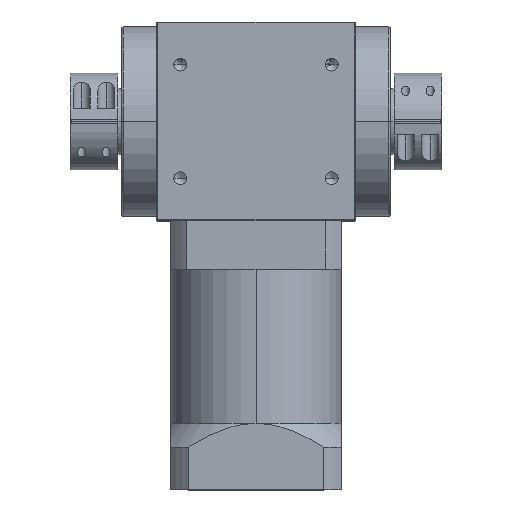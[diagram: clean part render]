
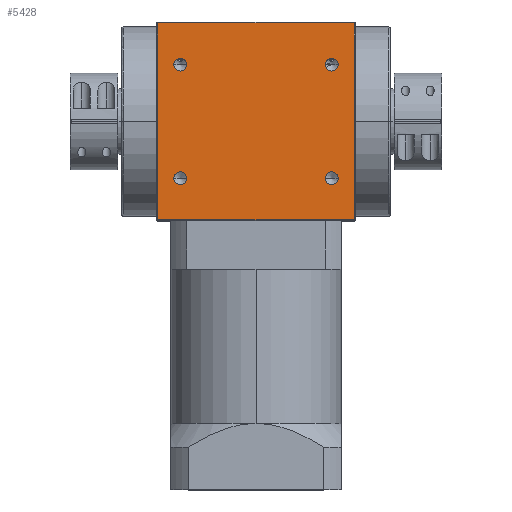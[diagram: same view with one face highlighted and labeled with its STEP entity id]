
A CAD part, top view. The second image highlights one B-rep face of the part: STEP entity #5428.
In plain terms, the highlighted planar face has unit normal (0, 0, 1).
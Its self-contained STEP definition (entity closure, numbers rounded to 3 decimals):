
#161 = FACE_BOUND ( 'NONE', #11121, .T. ) ;
#165 = ORIENTED_EDGE ( 'NONE', *, *, #4998, .F. ) ;
#570 = CARTESIAN_POINT ( 'NONE',  ( -52., 52., 52.5 ) ) ;
#663 = CARTESIAN_POINT ( 'NONE',  ( -36.6, 30., 52.5 ) ) ;
#664 = DIRECTION ( 'NONE',  ( 0., 0., 1. ) ) ;
#726 = CARTESIAN_POINT ( 'NONE',  ( 43.4, 30., 52.5 ) ) ;
#926 = FACE_BOUND ( 'NONE', #4838, .T. ) ;
#949 = FACE_BOUND ( 'NONE', #8300, .T. ) ;
#1027 = AXIS2_PLACEMENT_3D ( 'NONE', #5708, #664, #6574 ) ;
#1197 = CARTESIAN_POINT ( 'NONE',  ( -43.4, 30., 52.5 ) ) ;
#1501 = DIRECTION ( 'NONE',  ( 1., 0., 0. ) ) ;
#1601 = DIRECTION ( 'NONE',  ( 0., 0., 1. ) ) ;
#1753 = EDGE_CURVE ( 'NONE', #9835, #6775, #7808, .T. ) ;
#1786 = EDGE_CURVE ( 'NONE', #3072, #9835, #7386, .T. ) ;
#1788 = EDGE_CURVE ( 'NONE', #10965, #2328, #10097, .T. ) ;
#1801 = EDGE_CURVE ( 'NONE', #11213, #5487, #9903, .T. ) ;
#1864 = EDGE_CURVE ( 'NONE', #6775, #11039, #10226, .T. ) ;
#2182 = DIRECTION ( 'NONE',  ( 0., 0., -1. ) ) ;
#2272 = EDGE_CURVE ( 'NONE', #5648, #11180, #3427, .T. ) ;
#2307 = EDGE_CURVE ( 'NONE', #2754, #4610, #3438, .T. ) ;
#2311 = EDGE_CURVE ( 'NONE', #3072, #11039, #8140, .T. ) ;
#2326 = CARTESIAN_POINT ( 'NONE',  ( -36.6, -30., 52.5 ) ) ;
#2328 = VERTEX_POINT ( 'NONE', #8997 ) ;
#2425 = CARTESIAN_POINT ( 'NONE',  ( -40., -30., 52.5 ) ) ;
#2434 = DIRECTION ( 'NONE',  ( 1., 0., 0. ) ) ;
#2443 = DIRECTION ( 'NONE',  ( 0., 0., -1. ) ) ;
#2455 = CARTESIAN_POINT ( 'NONE',  ( -40., 30., 52.5 ) ) ;
#2754 = VERTEX_POINT ( 'NONE', #1197 ) ;
#2803 = ORIENTED_EDGE ( 'NONE', *, *, #1801, .F. ) ;
#3072 = VERTEX_POINT ( 'NONE', #8445 ) ;
#3261 = CARTESIAN_POINT ( 'NONE',  ( 40., 30., 52.5 ) ) ;
#3321 = AXIS2_PLACEMENT_3D ( 'NONE', #4851, #4842, #4832 ) ;
#3362 = ORIENTED_EDGE ( 'NONE', *, *, #10332, .F. ) ;
#3427 = CIRCLE ( 'NONE', #6394, 3.4 ) ;
#3438 = CIRCLE ( 'NONE', #6174, 3.4 ) ;
#3451 = ORIENTED_EDGE ( 'NONE', *, *, #1753, .F. ) ;
#3455 = CARTESIAN_POINT ( 'NONE',  ( 43.4, -30., 52.5 ) ) ;
#3952 = EDGE_LOOP ( 'NONE', ( #5743, #4007, #3451, #9122 ) ) ;
#4007 = ORIENTED_EDGE ( 'NONE', *, *, #1864, .F. ) ;
#4179 = ORIENTED_EDGE ( 'NONE', *, *, #1788, .F. ) ;
#4307 = DIRECTION ( 'NONE',  ( 0., 1., 0. ) ) ;
#4494 = CARTESIAN_POINT ( 'NONE',  ( -52., -52., 52.5 ) ) ;
#4537 = FACE_OUTER_BOUND ( 'NONE', #3952, .T. ) ;
#4566 = DIRECTION ( 'NONE',  ( 1., 0., 0. ) ) ;
#4610 = VERTEX_POINT ( 'NONE', #663 ) ;
#4658 = CARTESIAN_POINT ( 'NONE',  ( 52., 52., 52.5 ) ) ;
#4798 = DIRECTION ( 'NONE',  ( 1., 0., 0. ) ) ;
#4799 = DIRECTION ( 'NONE',  ( 0., 0., 1. ) ) ;
#4811 = CARTESIAN_POINT ( 'NONE',  ( 40., -30., 52.5 ) ) ;
#4832 = DIRECTION ( 'NONE',  ( 1., 0., 0. ) ) ;
#4838 = EDGE_LOOP ( 'NONE', ( #4179, #165 ) ) ;
#4842 = DIRECTION ( 'NONE',  ( 0., 0., 1. ) ) ;
#4851 = CARTESIAN_POINT ( 'NONE',  ( -40., -30., 52.5 ) ) ;
#4998 = EDGE_CURVE ( 'NONE', #2328, #10965, #10095, .T. ) ;
#5048 = CARTESIAN_POINT ( 'NONE',  ( 52., -52., 52.5 ) ) ;
#5058 = DIRECTION ( 'NONE',  ( 0., -1., 0. ) ) ;
#5246 = CARTESIAN_POINT ( 'NONE',  ( 52., -52., 52.5 ) ) ;
#5282 = DIRECTION ( 'NONE',  ( -1., 0., 0. ) ) ;
#5390 = DIRECTION ( 'NONE',  ( 1., 0., 0. ) ) ;
#5405 = DIRECTION ( 'NONE',  ( 0., 0., -1. ) ) ;
#5412 = DIRECTION ( 'NONE',  ( 0., 0., -1. ) ) ;
#5415 = CARTESIAN_POINT ( 'NONE',  ( 40., 30., 52.5 ) ) ;
#5428 = ADVANCED_FACE ( 'NONE', ( #9593, #926, #161, #949, #4537 ), #8359, .F. ) ;
#5487 = VERTEX_POINT ( 'NONE', #7678 ) ;
#5648 = VERTEX_POINT ( 'NONE', #5999 ) ;
#5708 = CARTESIAN_POINT ( 'NONE',  ( 40., -30., 52.5 ) ) ;
#5743 = ORIENTED_EDGE ( 'NONE', *, *, #2311, .T. ) ;
#5936 = AXIS2_PLACEMENT_3D ( 'NONE', #8156, #8145, #8117 ) ;
#5999 = CARTESIAN_POINT ( 'NONE',  ( 36.6, 30., 52.5 ) ) ;
#6174 = AXIS2_PLACEMENT_3D ( 'NONE', #10901, #5412, #7078 ) ;
#6264 = VECTOR ( 'NONE', #4307, 1000. ) ;
#6394 = AXIS2_PLACEMENT_3D ( 'NONE', #3261, #2182, #4566 ) ;
#6547 = ORIENTED_EDGE ( 'NONE', *, *, #2272, .T. ) ;
#6574 = DIRECTION ( 'NONE',  ( 1., 0., 0. ) ) ;
#6702 = DIRECTION ( 'NONE',  ( -1., 0., 0. ) ) ;
#6775 = VERTEX_POINT ( 'NONE', #10193 ) ;
#6868 = ORIENTED_EDGE ( 'NONE', *, *, #7437, .T. ) ;
#6907 = ORIENTED_EDGE ( 'NONE', *, *, #7916, .T. ) ;
#6930 = CIRCLE ( 'NONE', #1027, 3.4 ) ;
#7078 = DIRECTION ( 'NONE',  ( 1., 0., 0. ) ) ;
#7386 = LINE ( 'NONE', #5048, #9872 ) ;
#7437 = EDGE_CURVE ( 'NONE', #11180, #5648, #8989, .T. ) ;
#7440 = AXIS2_PLACEMENT_3D ( 'NONE', #4811, #4799, #4798 ) ;
#7640 = AXIS2_PLACEMENT_3D ( 'NONE', #2425, #1601, #1501 ) ;
#7678 = CARTESIAN_POINT ( 'NONE',  ( 36.6, -30., 52.5 ) ) ;
#7808 = LINE ( 'NONE', #5246, #8284 ) ;
#7916 = EDGE_CURVE ( 'NONE', #4610, #2754, #8533, .T. ) ;
#8117 = DIRECTION ( 'NONE',  ( -1., 0., 0. ) ) ;
#8133 = VECTOR ( 'NONE', #6702, 1000. ) ;
#8140 = LINE ( 'NONE', #4658, #8133 ) ;
#8145 = DIRECTION ( 'NONE',  ( 0., 0., -1. ) ) ;
#8156 = CARTESIAN_POINT ( 'NONE',  ( 52., -52., 52.5 ) ) ;
#8284 = VECTOR ( 'NONE', #5282, 1000. ) ;
#8300 = EDGE_LOOP ( 'NONE', ( #6907, #9594 ) ) ;
#8359 = PLANE ( 'NONE',  #5936 ) ;
#8445 = CARTESIAN_POINT ( 'NONE',  ( 52., 52., 52.5 ) ) ;
#8533 = CIRCLE ( 'NONE', #8843, 3.4 ) ;
#8843 = AXIS2_PLACEMENT_3D ( 'NONE', #2455, #2443, #2434 ) ;
#8989 = CIRCLE ( 'NONE', #10666, 3.4 ) ;
#8997 = CARTESIAN_POINT ( 'NONE',  ( -43.4, -30., 52.5 ) ) ;
#9122 = ORIENTED_EDGE ( 'NONE', *, *, #1786, .F. ) ;
#9427 = EDGE_LOOP ( 'NONE', ( #2803, #3362 ) ) ;
#9593 = FACE_BOUND ( 'NONE', #9427, .T. ) ;
#9594 = ORIENTED_EDGE ( 'NONE', *, *, #2307, .T. ) ;
#9835 = VERTEX_POINT ( 'NONE', #10413 ) ;
#9872 = VECTOR ( 'NONE', #5058, 1000. ) ;
#9903 = CIRCLE ( 'NONE', #7440, 3.4 ) ;
#10095 = CIRCLE ( 'NONE', #7640, 3.4 ) ;
#10097 = CIRCLE ( 'NONE', #3321, 3.4 ) ;
#10193 = CARTESIAN_POINT ( 'NONE',  ( -52., -52., 52.5 ) ) ;
#10226 = LINE ( 'NONE', #4494, #6264 ) ;
#10332 = EDGE_CURVE ( 'NONE', #5487, #11213, #6930, .T. ) ;
#10413 = CARTESIAN_POINT ( 'NONE',  ( 52., -52., 52.5 ) ) ;
#10666 = AXIS2_PLACEMENT_3D ( 'NONE', #5415, #5405, #5390 ) ;
#10901 = CARTESIAN_POINT ( 'NONE',  ( -40., 30., 52.5 ) ) ;
#10965 = VERTEX_POINT ( 'NONE', #2326 ) ;
#11039 = VERTEX_POINT ( 'NONE', #570 ) ;
#11121 = EDGE_LOOP ( 'NONE', ( #6868, #6547 ) ) ;
#11180 = VERTEX_POINT ( 'NONE', #726 ) ;
#11213 = VERTEX_POINT ( 'NONE', #3455 ) ;
